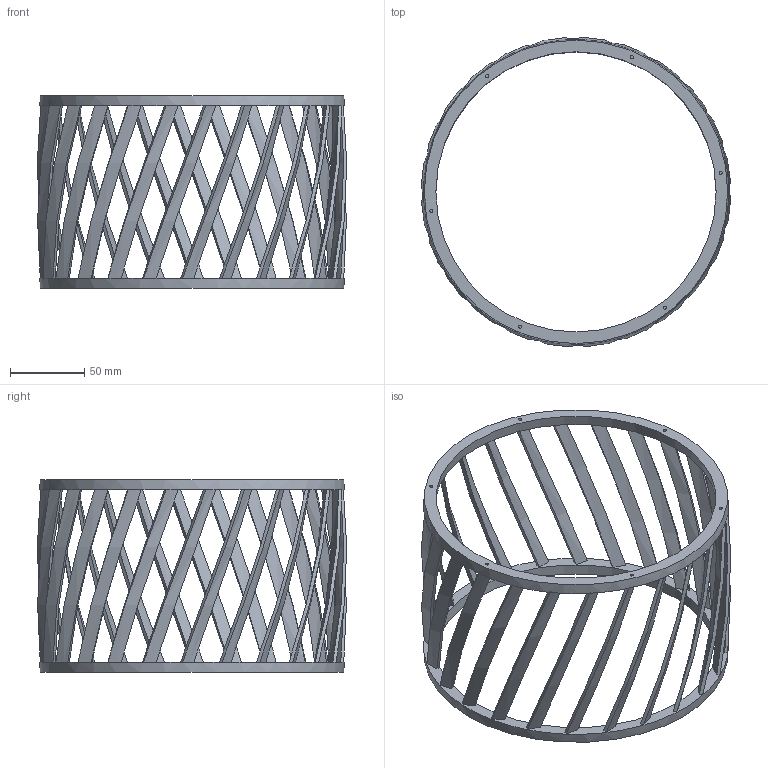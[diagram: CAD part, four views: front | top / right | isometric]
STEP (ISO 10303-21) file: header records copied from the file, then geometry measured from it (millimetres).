
FILE_DESCRIPTION(('Open CASCADE Model'),'2;1');
FILE_NAME('Open CASCADE Shape Model','2026-10-15T23:05:06',('Author'),( 'Open CASCADE'),'Open CASCADE STEP processor 7.9','Open CASCADE 7.9' ,'Unknown');
FILE_SCHEMA(('AUTOMOTIVE_DESIGN { 1 0 10303 214 1 1 1 1 }'));
Length unit declared in the file: millimetre
Products named in the file (1): Open CASCADE STEP translator 7.9 8
Bounding box: 208.5 x 208.5 x 130 mm (x, y, z)
Volume: 127573.1 mm3; surface area: 101185.4 mm2
Topology: 1 solids, 1 shells, 128 faces, 336 edges, 224 vertices
Faces by surface type: bspline 96, plane 16, cylinder 12, cone 4
Full cylindrical faces by diameter (mm): 2.2 x12
Entity records: 10998 total; most frequent: CARTESIAN_POINT 5849, ORIENTED_EDGE 672, PCURVE 672, DEFINITIONAL_REPRESENTATION 672, B_SPLINE_CURVE_WITH_KNOTS 576, DIRECTION 422, EDGE_CURVE 336, SURFACE_CURVE 320
